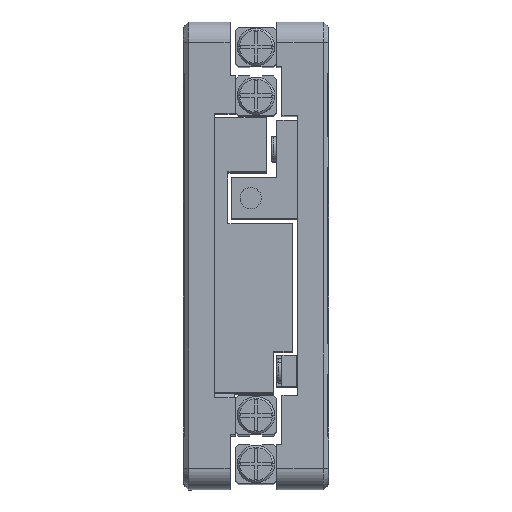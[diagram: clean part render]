
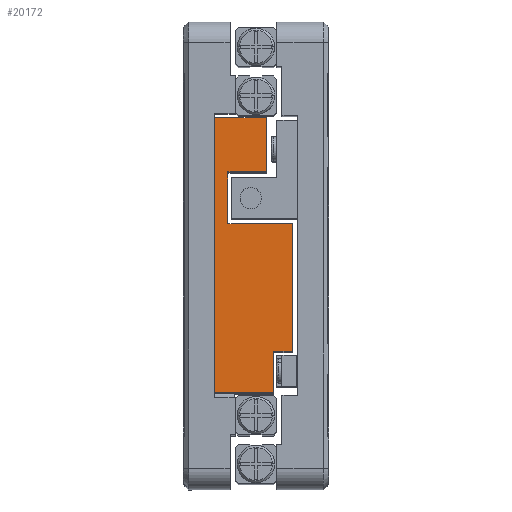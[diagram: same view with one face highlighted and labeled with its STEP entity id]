
A CAD part, top view. The second image highlights one B-rep face of the part: STEP entity #20172.
In plain terms, the highlighted planar face has unit normal (0, 0, 1) as drawn and (0, -1, 0) by its records, which use the part's own axes.
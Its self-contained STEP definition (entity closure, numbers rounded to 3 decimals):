
#201 = VERTEX_POINT ( 'NONE', #15298 ) ;
#648 = VERTEX_POINT ( 'NONE', #14633 ) ;
#660 = VECTOR ( 'NONE', #10852, 1000. ) ;
#668 = EDGE_CURVE ( 'NONE', #13663, #10259, #1630, .T. ) ;
#983 = CARTESIAN_POINT ( 'NONE',  ( 12.234, 0., -7.844 ) ) ;
#1630 = LINE ( 'NONE', #24187, #22162 ) ;
#1963 = DIRECTION ( 'NONE',  ( 0., 0., 1. ) ) ;
#2163 = CARTESIAN_POINT ( 'NONE',  ( -9.066, 0., -8.544 ) ) ;
#2820 = EDGE_CURVE ( 'NONE', #201, #22663, #12325, .T. ) ;
#3342 = LINE ( 'NONE', #983, #660 ) ;
#3544 = EDGE_CURVE ( 'NONE', #29045, #201, #3342, .T. ) ;
#4819 = EDGE_CURVE ( 'NONE', #24346, #17221, #9316, .T. ) ;
#5361 = CARTESIAN_POINT ( 'NONE',  ( -9.066, 0., -2.844 ) ) ;
#6171 = CARTESIAN_POINT ( 'NONE',  ( 17.434, 0., -7.844 ) ) ;
#6173 = LINE ( 'NONE', #15093, #24359 ) ;
#6769 = CARTESIAN_POINT ( 'NONE',  ( 7.234, 0., -10.344 ) ) ;
#8384 = ORIENTED_EDGE ( 'NONE', *, *, #23162, .F. ) ;
#8790 = CARTESIAN_POINT ( 'NONE',  ( 0., 0., 0. ) ) ;
#8943 = DIRECTION ( 'NONE',  ( 0., 0., -1. ) ) ;
#9316 = LINE ( 'NONE', #20092, #17741 ) ;
#10259 = VERTEX_POINT ( 'NONE', #5361 ) ;
#10299 = ORIENTED_EDGE ( 'NONE', *, *, #24306, .F. ) ;
#10467 = DIRECTION ( 'NONE',  ( 0., 0., -1. ) ) ;
#10727 = VECTOR ( 'NONE', #26266, 1000. ) ;
#10852 = DIRECTION ( 'NONE',  ( 0., 0., 1. ) ) ;
#10975 = DIRECTION ( 'NONE',  ( 0., 1., 0. ) ) ;
#11156 = EDGE_CURVE ( 'NONE', #13834, #29045, #20585, .T. ) ;
#11787 = CARTESIAN_POINT ( 'NONE',  ( 7.234, 0., -4.144 ) ) ;
#12325 = LINE ( 'NONE', #16815, #25113 ) ;
#13443 = PLANE ( 'NONE',  #17597 ) ;
#13663 = VERTEX_POINT ( 'NONE', #24405 ) ;
#13718 = LINE ( 'NONE', #20925, #23809 ) ;
#13834 = VERTEX_POINT ( 'NONE', #6171 ) ;
#14144 = CARTESIAN_POINT ( 'NONE',  ( 17.434, 0., -2.844 ) ) ;
#14633 = CARTESIAN_POINT ( 'NONE',  ( -5.066, 0., -8.544 ) ) ;
#14733 = ORIENTED_EDGE ( 'NONE', *, *, #11156, .F. ) ;
#15093 = CARTESIAN_POINT ( 'NONE',  ( 7.234, 0., -4.144 ) ) ;
#15298 = CARTESIAN_POINT ( 'NONE',  ( 12.234, 0., -4.144 ) ) ;
#15754 = ORIENTED_EDGE ( 'NONE', *, *, #2820, .F. ) ;
#16504 = DIRECTION ( 'NONE',  ( -1., 0., 0. ) ) ;
#16815 = CARTESIAN_POINT ( 'NONE',  ( 12.234, 0., -4.144 ) ) ;
#17221 = VERTEX_POINT ( 'NONE', #26238 ) ;
#17233 = CARTESIAN_POINT ( 'NONE',  ( 17.434, 0., -7.844 ) ) ;
#17361 = EDGE_CURVE ( 'NONE', #648, #13663, #19823, .T. ) ;
#17597 = AXIS2_PLACEMENT_3D ( 'NONE', #8790, #10975, #28600 ) ;
#17741 = VECTOR ( 'NONE', #27275, 1000. ) ;
#18806 = VECTOR ( 'NONE', #22039, 1000. ) ;
#19217 = CARTESIAN_POINT ( 'NONE',  ( -9.066, 0., -2.844 ) ) ;
#19278 = ORIENTED_EDGE ( 'NONE', *, *, #668, .F. ) ;
#19560 = LINE ( 'NONE', #19217, #18806 ) ;
#19693 = DIRECTION ( 'NONE',  ( -1., 0., 0. ) ) ;
#19823 = LINE ( 'NONE', #2163, #28407 ) ;
#20092 = CARTESIAN_POINT ( 'NONE',  ( -9.066, 0., -10.344 ) ) ;
#20172 = ADVANCED_FACE ( 'NONE', ( #31887 ), #13443, .F. ) ;
#20585 = LINE ( 'NONE', #17233, #30324 ) ;
#20791 = CARTESIAN_POINT ( 'NONE',  ( 12.234, 0., -7.844 ) ) ;
#20925 = CARTESIAN_POINT ( 'NONE',  ( 17.434, 0., -10.344 ) ) ;
#21899 = LINE ( 'NONE', #23883, #10727 ) ;
#22039 = DIRECTION ( 'NONE',  ( 1., 0., 0. ) ) ;
#22135 = DIRECTION ( 'NONE',  ( -1., 0., 0. ) ) ;
#22162 = VECTOR ( 'NONE', #1963, 1000. ) ;
#22663 = VERTEX_POINT ( 'NONE', #11787 ) ;
#23162 = EDGE_CURVE ( 'NONE', #17221, #648, #21899, .T. ) ;
#23329 = ORIENTED_EDGE ( 'NONE', *, *, #26400, .F. ) ;
#23809 = VECTOR ( 'NONE', #8943, 1000. ) ;
#23883 = CARTESIAN_POINT ( 'NONE',  ( -5.066, 0., -10.344 ) ) ;
#24187 = CARTESIAN_POINT ( 'NONE',  ( -9.066, 0., -10.344 ) ) ;
#24306 = EDGE_CURVE ( 'NONE', #28174, #13834, #13718, .T. ) ;
#24346 = VERTEX_POINT ( 'NONE', #6769 ) ;
#24359 = VECTOR ( 'NONE', #10467, 1000. ) ;
#24405 = CARTESIAN_POINT ( 'NONE',  ( -9.066, 0., -8.544 ) ) ;
#25113 = VECTOR ( 'NONE', #16504, 1000. ) ;
#25833 = ORIENTED_EDGE ( 'NONE', *, *, #3544, .F. ) ;
#26238 = CARTESIAN_POINT ( 'NONE',  ( -5.066, 0., -10.344 ) ) ;
#26266 = DIRECTION ( 'NONE',  ( 0., 0., 1. ) ) ;
#26400 = EDGE_CURVE ( 'NONE', #22663, #24346, #6173, .T. ) ;
#27164 = ORIENTED_EDGE ( 'NONE', *, *, #4819, .F. ) ;
#27275 = DIRECTION ( 'NONE',  ( -1., 0., 0. ) ) ;
#27951 = ORIENTED_EDGE ( 'NONE', *, *, #17361, .F. ) ;
#28174 = VERTEX_POINT ( 'NONE', #14144 ) ;
#28407 = VECTOR ( 'NONE', #19693, 1000. ) ;
#28600 = DIRECTION ( 'NONE',  ( 0., 0., 1. ) ) ;
#29045 = VERTEX_POINT ( 'NONE', #20791 ) ;
#29782 = EDGE_CURVE ( 'NONE', #10259, #28174, #19560, .T. ) ;
#30324 = VECTOR ( 'NONE', #22135, 1000. ) ;
#31120 = ORIENTED_EDGE ( 'NONE', *, *, #29782, .F. ) ;
#31887 = FACE_OUTER_BOUND ( 'NONE', #32076, .T. ) ;
#32076 = EDGE_LOOP ( 'NONE', ( #19278, #27951, #8384, #27164, #23329, #15754, #25833, #14733, #10299, #31120 ) ) ;
